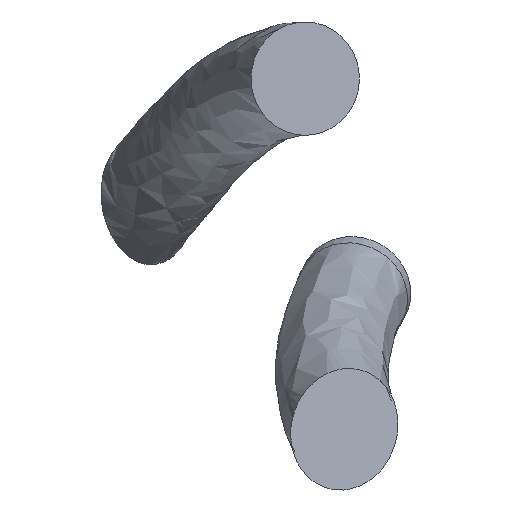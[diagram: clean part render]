
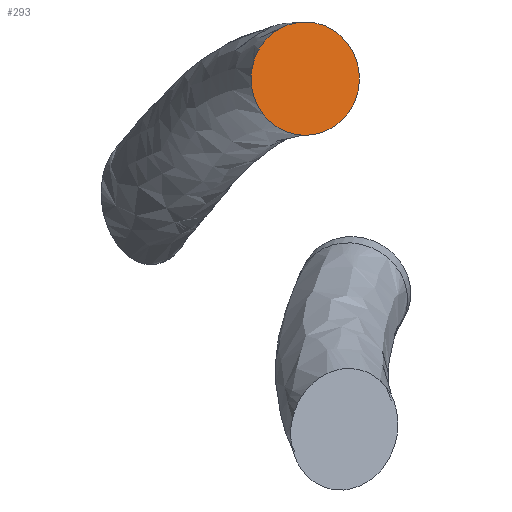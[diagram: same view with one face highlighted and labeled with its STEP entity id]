
A CAD part, top view. The second image highlights one B-rep face of the part: STEP entity #293.
In plain terms, the highlighted planar face has unit normal (0.292, 0, 0.956).
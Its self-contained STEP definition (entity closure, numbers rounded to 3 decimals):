
#102 = CARTESIAN_POINT ( 'NONE',  ( 734.504, -249.5, 722.316 ) ) ;
#264 = CIRCLE ( 'NONE', #1081, 22.5 ) ;
#282 = AXIS2_PLACEMENT_3D ( 'NONE', #998, #1076, #638 ) ;
#293 = ADVANCED_FACE ( 'NONE', ( #633 ), #459, .T. ) ;
#376 = CARTESIAN_POINT ( 'NONE',  ( 742.371, -228.557, 719.911 ) ) ;
#459 = PLANE ( 'NONE',  #282 ) ;
#466 = DIRECTION ( 'NONE',  ( 0.292, 0., 0.956 ) ) ;
#566 = VERTEX_POINT ( 'NONE', #376 ) ;
#633 = FACE_OUTER_BOUND ( 'NONE', #1017, .T. ) ;
#638 = DIRECTION ( 'NONE',  ( 0.35, 0.931, -0.107 ) ) ;
#840 = ORIENTED_EDGE ( 'NONE', *, *, #1093, .T. ) ;
#998 = CARTESIAN_POINT ( 'NONE',  ( 734.504, -249.5, 722.316 ) ) ;
#1017 = EDGE_LOOP ( 'NONE', ( #840 ) ) ;
#1076 = DIRECTION ( 'NONE',  ( 0.292, 0., 0.956 ) ) ;
#1081 = AXIS2_PLACEMENT_3D ( 'NONE', #102, #466, #1163 ) ;
#1093 = EDGE_CURVE ( 'NONE', #566, #566, #264, .T. ) ;
#1163 = DIRECTION ( 'NONE',  ( 0.35, 0.931, -0.107 ) ) ;
